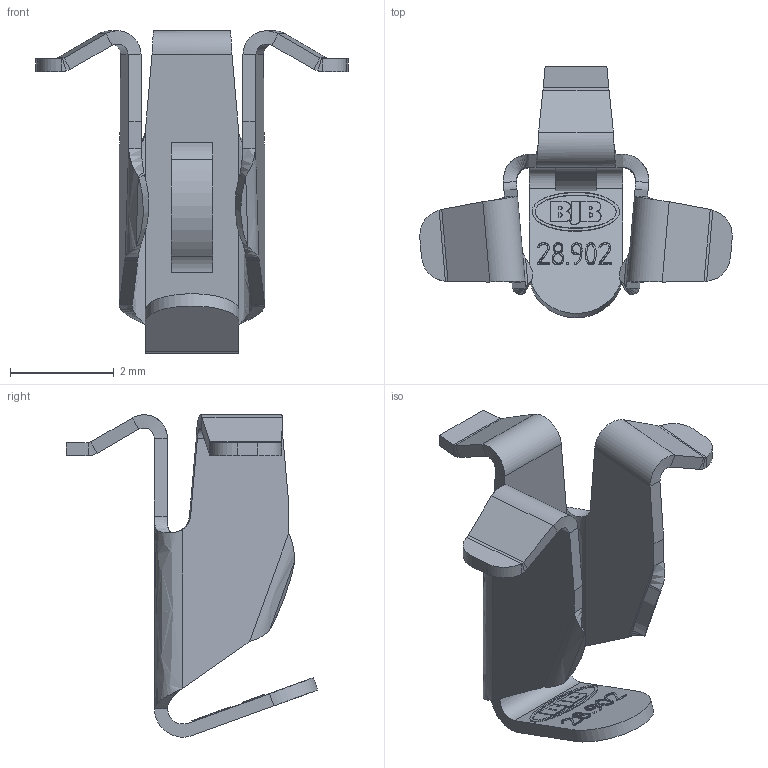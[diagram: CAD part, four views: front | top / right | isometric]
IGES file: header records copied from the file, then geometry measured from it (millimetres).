
Global section: file name: C:\CoreTechnologie\3D-in\01XY801Y06.igs; native system: CT CoreTechnologie 3D Evolution; preprocessor: 2006; author: assmuth; date: 1160306.090753; units: millimetre
Bounding box: 6.01 x 4.83 x 6.2 mm (x, y, z)
Surface area: 101.7 mm2 (no closed solid volume)
Topology: 0 solids, 0 shells, 209 faces, 968 edges, 968 vertices
Faces by surface type: bspline 209
